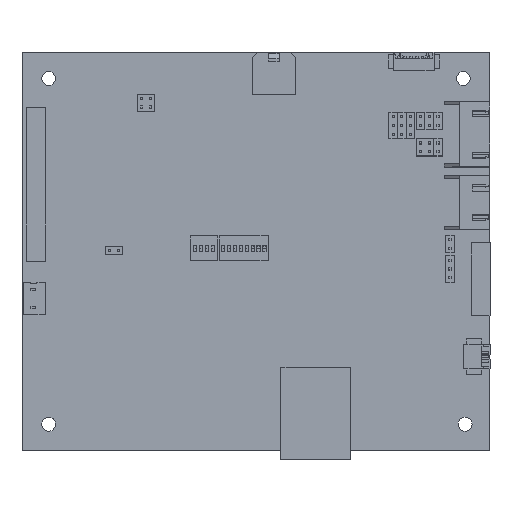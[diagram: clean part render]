
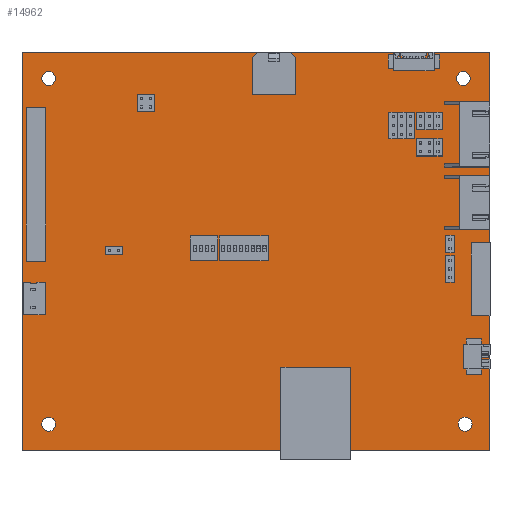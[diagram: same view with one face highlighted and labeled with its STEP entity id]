
A CAD part, top view. The second image highlights one B-rep face of the part: STEP entity #14962.
In plain terms, the highlighted planar face has unit normal (0, 0, 1).
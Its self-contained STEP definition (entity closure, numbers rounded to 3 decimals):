
#3276 = DIRECTION ( 'NONE',  ( 1., 0., 0. ) ) ;
#3277 = DIRECTION ( 'NONE',  ( 0., 0., 1. ) ) ;
#3285 = AXIS2_PLACEMENT_3D ( 'NONE', #3289, #3277, #3276 ) ;
#3288 = CIRCLE ( 'NONE', #3285, 1.6 ) ;
#3289 = CARTESIAN_POINT ( 'NONE',  ( -36.842, 45.143, 1.65 ) ) ;
#3293 = AXIS2_PLACEMENT_3D ( 'NONE', #3355, #3354, #3353 ) ;
#3294 = AXIS2_PLACEMENT_3D ( 'NONE', #3351, #3350, #3349 ) ;
#3295 = CIRCLE ( 'NONE', #3293, 1.6 ) ;
#3296 = FACE_BOUND ( 'NONE', #14965, .T. ) ;
#3300 = FACE_BOUND ( 'NONE', #14968, .T. ) ;
#3301 = AXIS2_PLACEMENT_3D ( 'NONE', #3361, #3360, #3359 ) ;
#3311 = FACE_BOUND ( 'NONE', #14963, .T. ) ;
#3312 = FACE_OUTER_BOUND ( 'NONE', #14933, .T. ) ;
#3315 = FACE_BOUND ( 'NONE', #14973, .T. ) ;
#3321 = PLANE ( 'NONE',  #3301 ) ;
#3342 = DIRECTION ( 'NONE',  ( 1., 0., 0. ) ) ;
#3343 = DIRECTION ( 'NONE',  ( 0., 0., 1. ) ) ;
#3344 = CARTESIAN_POINT ( 'NONE',  ( -36.842, -34.227, 1.65 ) ) ;
#3345 = AXIS2_PLACEMENT_3D ( 'NONE', #3344, #3343, #3342 ) ;
#3349 = DIRECTION ( 'NONE',  ( -1., 0., 0. ) ) ;
#3350 = DIRECTION ( 'NONE',  ( 0., 0., 1. ) ) ;
#3351 = CARTESIAN_POINT ( 'NONE',  ( 58.398, 45.143, 1.65 ) ) ;
#3353 = DIRECTION ( 'NONE',  ( 1., 0., 0. ) ) ;
#3354 = DIRECTION ( 'NONE',  ( 0., 0., 1. ) ) ;
#3355 = CARTESIAN_POINT ( 'NONE',  ( 58.778, -34.227, 1.65 ) ) ;
#3356 = CIRCLE ( 'NONE', #3345, 1.6 ) ;
#3357 = CIRCLE ( 'NONE', #3294, 1.6 ) ;
#3359 = DIRECTION ( 'NONE',  ( 1., 0., 0. ) ) ;
#3360 = DIRECTION ( 'NONE',  ( 0., 0., 1. ) ) ;
#3361 = CARTESIAN_POINT ( 'NONE',  ( -42.942, -40.327, 1.65 ) ) ;
#8590 = EDGE_CURVE ( 'NONE', #11572, #11562, #18664, .T. ) ;
#8594 = EDGE_CURVE ( 'NONE', #11562, #11559, #18658, .T. ) ;
#8604 = EDGE_CURVE ( 'NONE', #8624, #11572, #18643, .T. ) ;
#8615 = VERTEX_POINT ( 'NONE', #18686 ) ;
#8618 = EDGE_CURVE ( 'NONE', #11514, #8615, #18698, .T. ) ;
#8620 = VERTEX_POINT ( 'NONE', #18692 ) ;
#8623 = VERTEX_POINT ( 'NONE', #18693 ) ;
#8624 = VERTEX_POINT ( 'NONE', #18732 ) ;
#8627 = VERTEX_POINT ( 'NONE', #18720 ) ;
#8642 = EDGE_CURVE ( 'NONE', #8623, #8627, #18712, .T. ) ;
#8645 = VERTEX_POINT ( 'NONE', #18715 ) ;
#11514 = VERTEX_POINT ( 'NONE', #19436 ) ;
#11521 = VERTEX_POINT ( 'NONE', #19426 ) ;
#11524 = VERTEX_POINT ( 'NONE', #19480 ) ;
#11526 = EDGE_CURVE ( 'NONE', #11524, #11521, #19483, .T. ) ;
#11530 = EDGE_CURVE ( 'NONE', #8620, #8645, #19474, .T. ) ;
#11559 = VERTEX_POINT ( 'NONE', #19546 ) ;
#11560 = EDGE_CURVE ( 'NONE', #11559, #8624, #19543, .T. ) ;
#11562 = VERTEX_POINT ( 'NONE', #19539 ) ;
#11572 = VERTEX_POINT ( 'NONE', #19280 ) ;
#14927 = ORIENTED_EDGE ( 'NONE', *, *, #11560, .T. ) ;
#14930 = ORIENTED_EDGE ( 'NONE', *, *, #8590, .T. ) ;
#14932 = ORIENTED_EDGE ( 'NONE', *, *, #14976, .F. ) ;
#14933 = EDGE_LOOP ( 'NONE', ( #14927, #14991, #14930, #14966 ) ) ;
#14935 = EDGE_CURVE ( 'NONE', #8645, #8620, #3288, .T. ) ;
#14962 = ADVANCED_FACE ( 'NONE', ( #3311, #3300, #3296, #3315, #3312 ), #3321, .T. ) ;
#14963 = EDGE_LOOP ( 'NONE', ( #14964, #14970 ) ) ;
#14964 = ORIENTED_EDGE ( 'NONE', *, *, #14967, .F. ) ;
#14965 = EDGE_LOOP ( 'NONE', ( #14932, #14977 ) ) ;
#14966 = ORIENTED_EDGE ( 'NONE', *, *, #8594, .T. ) ;
#14967 = EDGE_CURVE ( 'NONE', #11521, #11524, #3295, .T. ) ;
#14968 = EDGE_LOOP ( 'NONE', ( #14972, #14975 ) ) ;
#14969 = ORIENTED_EDGE ( 'NONE', *, *, #11530, .F. ) ;
#14970 = ORIENTED_EDGE ( 'NONE', *, *, #11526, .F. ) ;
#14971 = EDGE_CURVE ( 'NONE', #8615, #11514, #3357, .T. ) ;
#14972 = ORIENTED_EDGE ( 'NONE', *, *, #14971, .F. ) ;
#14973 = EDGE_LOOP ( 'NONE', ( #14990, #14969 ) ) ;
#14975 = ORIENTED_EDGE ( 'NONE', *, *, #8618, .F. ) ;
#14976 = EDGE_CURVE ( 'NONE', #8627, #8623, #3356, .T. ) ;
#14977 = ORIENTED_EDGE ( 'NONE', *, *, #8642, .F. ) ;
#14990 = ORIENTED_EDGE ( 'NONE', *, *, #14935, .F. ) ;
#14991 = ORIENTED_EDGE ( 'NONE', *, *, #8604, .T. ) ;
#18640 = DIRECTION ( 'NONE',  ( 1., 0., 0. ) ) ;
#18641 = VECTOR ( 'NONE', #18640, 1000. ) ;
#18642 = CARTESIAN_POINT ( 'NONE',  ( -42.942, -40.327, 1.65 ) ) ;
#18643 = LINE ( 'NONE', #18642, #18641 ) ;
#18652 = DIRECTION ( 'NONE',  ( -1., 0., 0. ) ) ;
#18653 = VECTOR ( 'NONE', #18652, 1000. ) ;
#18657 = CARTESIAN_POINT ( 'NONE',  ( -42.942, 51.113, 1.65 ) ) ;
#18658 = LINE ( 'NONE', #18657, #18653 ) ;
#18661 = DIRECTION ( 'NONE',  ( 0., 1., 0. ) ) ;
#18662 = VECTOR ( 'NONE', #18661, 1000. ) ;
#18663 = CARTESIAN_POINT ( 'NONE',  ( 64.498, 51.113, 1.65 ) ) ;
#18664 = LINE ( 'NONE', #18663, #18662 ) ;
#18686 = CARTESIAN_POINT ( 'NONE',  ( 59.998, 45.143, 1.65 ) ) ;
#18692 = CARTESIAN_POINT ( 'NONE',  ( -38.442, 45.143, 1.65 ) ) ;
#18693 = CARTESIAN_POINT ( 'NONE',  ( -38.442, -34.227, 1.65 ) ) ;
#18698 = CIRCLE ( 'NONE', #18730, 1.6 ) ;
#18708 = CARTESIAN_POINT ( 'NONE',  ( -36.842, -34.227, 1.65 ) ) ;
#18712 = CIRCLE ( 'NONE', #18713, 1.6 ) ;
#18713 = AXIS2_PLACEMENT_3D ( 'NONE', #18708, #18753, #18752 ) ;
#18715 = CARTESIAN_POINT ( 'NONE',  ( -35.242, 45.143, 1.65 ) ) ;
#18720 = CARTESIAN_POINT ( 'NONE',  ( -35.242, -34.227, 1.65 ) ) ;
#18727 = DIRECTION ( 'NONE',  ( -1., 0., 0. ) ) ;
#18728 = DIRECTION ( 'NONE',  ( 0., 0., 1. ) ) ;
#18729 = CARTESIAN_POINT ( 'NONE',  ( 58.398, 45.143, 1.65 ) ) ;
#18730 = AXIS2_PLACEMENT_3D ( 'NONE', #18729, #18728, #18727 ) ;
#18732 = CARTESIAN_POINT ( 'NONE',  ( -42.942, -40.327, 1.65 ) ) ;
#18752 = DIRECTION ( 'NONE',  ( 1., 0., 0. ) ) ;
#18753 = DIRECTION ( 'NONE',  ( 0., 0., 1. ) ) ;
#19280 = CARTESIAN_POINT ( 'NONE',  ( 64.498, -40.327, 1.65 ) ) ;
#19426 = CARTESIAN_POINT ( 'NONE',  ( 60.378, -34.227, 1.65 ) ) ;
#19436 = CARTESIAN_POINT ( 'NONE',  ( 56.798, 45.143, 1.65 ) ) ;
#19464 = DIRECTION ( 'NONE',  ( 1., 0., 0. ) ) ;
#19465 = DIRECTION ( 'NONE',  ( 0., 0., 1. ) ) ;
#19466 = CARTESIAN_POINT ( 'NONE',  ( -36.842, 45.143, 1.65 ) ) ;
#19467 = AXIS2_PLACEMENT_3D ( 'NONE', #19466, #19465, #19464 ) ;
#19469 = DIRECTION ( 'NONE',  ( 1., 0., 0. ) ) ;
#19470 = DIRECTION ( 'NONE',  ( 0., 0., 1. ) ) ;
#19474 = CIRCLE ( 'NONE', #19467, 1.6 ) ;
#19480 = CARTESIAN_POINT ( 'NONE',  ( 57.178, -34.227, 1.65 ) ) ;
#19481 = AXIS2_PLACEMENT_3D ( 'NONE', #19485, #19470, #19469 ) ;
#19483 = CIRCLE ( 'NONE', #19481, 1.6 ) ;
#19485 = CARTESIAN_POINT ( 'NONE',  ( 58.778, -34.227, 1.65 ) ) ;
#19537 = DIRECTION ( 'NONE',  ( 0., -1., 0. ) ) ;
#19538 = VECTOR ( 'NONE', #19537, 1000. ) ;
#19539 = CARTESIAN_POINT ( 'NONE',  ( 64.498, 51.113, 1.65 ) ) ;
#19540 = CARTESIAN_POINT ( 'NONE',  ( -42.942, 51.113, 1.65 ) ) ;
#19543 = LINE ( 'NONE', #19540, #19538 ) ;
#19546 = CARTESIAN_POINT ( 'NONE',  ( -42.942, 51.113, 1.65 ) ) ;
